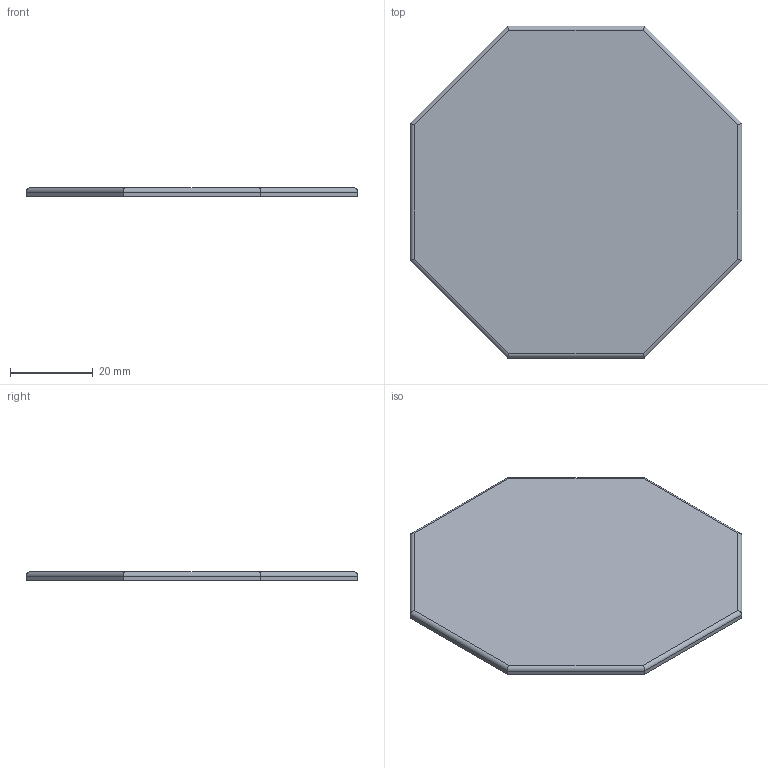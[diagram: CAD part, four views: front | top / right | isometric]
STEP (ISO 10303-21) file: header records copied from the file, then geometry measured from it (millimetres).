
FILE_DESCRIPTION(('STEP AP214'),'1');
FILE_NAME('EGT258_ABDECKKAPPE.CATPart.stp','2015-09-14T13:15:40',('3D-Tool'),(' '),'Spatial InterOp 3D',' ',' ');
FILE_SCHEMA(('automotive_design'));
Length unit declared in the file: millimetre
Products named in the file (1): EGT258_ABDECKKAPPE|PartBody|Funktionsteil
Bounding box: 80 x 80 x 2 mm (x, y, z)
Volume: 10547.3 mm3; surface area: 11019.8 mm2
Topology: 1 solids, 1 shells, 18 faces, 40 edges, 24 vertices
Faces by surface type: plane 10, cylinder 8
Entity records: 745 total; most frequent: CARTESIAN_POINT 195, ORIENTED_EDGE 80, DIRECTION 70, EDGE_CURVE 40, LINE 32, VECTOR 32, VERTEX_POINT 24, STYLED_ITEM 19
